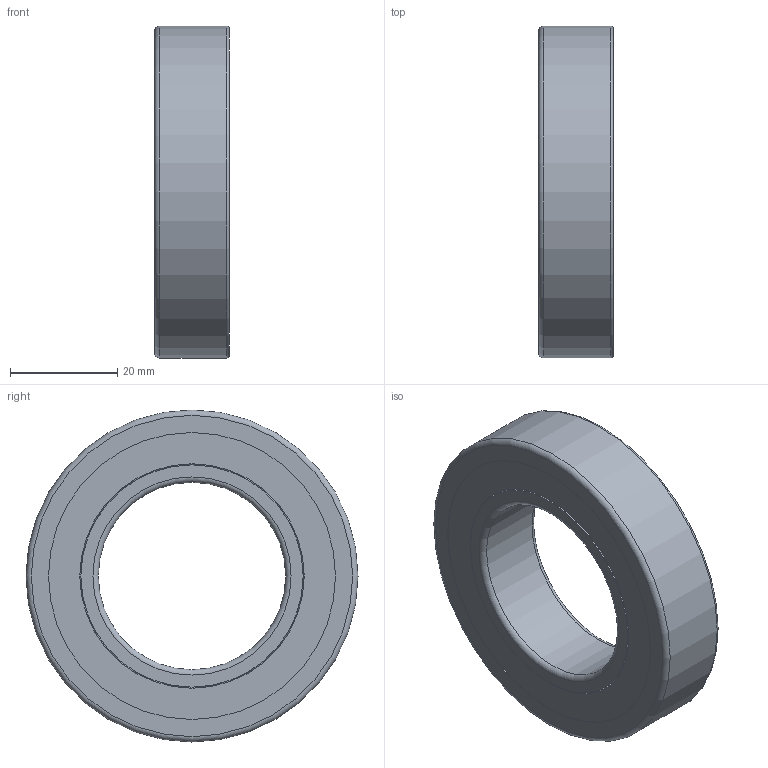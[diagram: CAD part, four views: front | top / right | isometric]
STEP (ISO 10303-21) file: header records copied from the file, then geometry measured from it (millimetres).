
FILE_DESCRIPTION(/* description */ (''),/* implementation_level */ '2;1');
FILE_NAME(/* name */ 'KH_6007_TA.step',/* time_stamp */ '2013-03-07T07:04:13+01:00',/* author */ ('Marian'),/* organization */ ('GMN'),/* preprocessor_version */ 'ST-DEVELOPER v11',/* originating_system */ 'SIEMENS UGS NX 6.0',/* authorisation */ '');
FILE_SCHEMA (('CONFIG_CONTROL_DESIGN'));
Length unit declared in the file: millimetre
Products named in the file (1): KH_6007_TA
Bounding box: 14 x 62 x 62 mm (x, y, z)
Volume: 22841.3 mm3; surface area: 20525.2 mm2
Topology: 25 solids, 25 shells, 72 faces, 176 edges, 114 vertices
Faces by surface type: cylinder 33, sphere 20, plane 12, torus 6, cone 1
Full cylindrical faces by diameter (mm): 6.55 x20, 35 x1, 41.5 x1, 41.9 x1, 43.2 x1, 43.6 x1, 47.09 x1, 50.98 x1, 51.38 x1, 53.6 x2, 56 x2, 62 x1
Entity records: 3822 total; most frequent: CARTESIAN_POINT 2517, DIRECTION 210, FACE_BOUND 164, EDGE_LOOP 144, ORIENTED_EDGE 144, AXIS2_PLACEMENT_3D 105, VERTEX_POINT 92, ADVANCED_FACE 72
